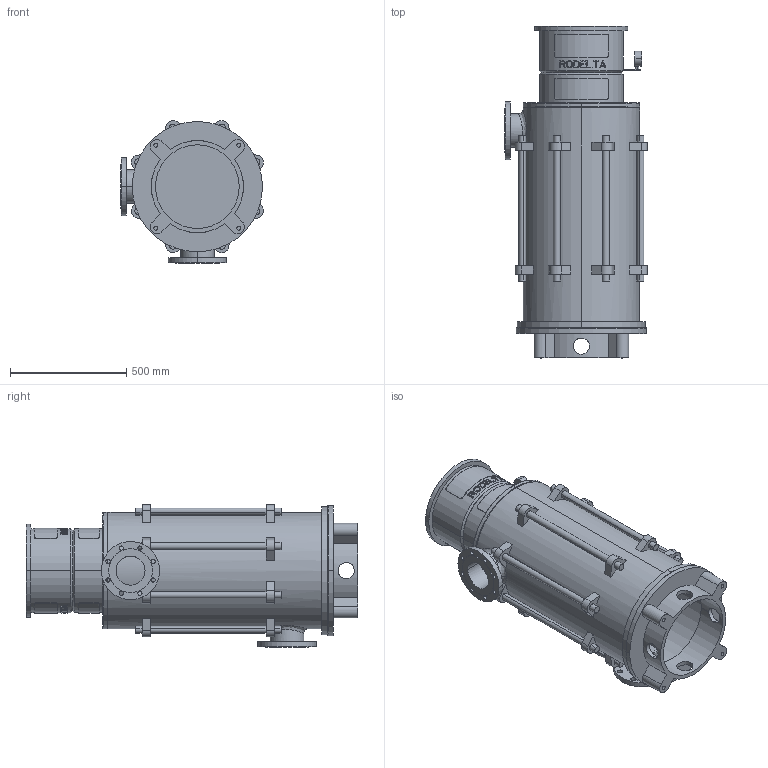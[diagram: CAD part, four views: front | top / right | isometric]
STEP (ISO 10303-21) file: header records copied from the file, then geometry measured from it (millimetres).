
FILE_DESCRIPTION((''),'2;1');
FILE_NAME('LS5_5TR_0GR_TOT_30KW','2023-08-08T',('Lyritlocal'),(''),'PRO/ENGINEER BY PARAMETRIC TECHNOLOGY CORPORATION, 2016360','PRO/ENGINEER BY PARAMETRIC TECHNOLOGY CORPORATION, 2016360','');
FILE_SCHEMA(('CONFIG_CONTROL_DESIGN'));
Length unit declared in the file: millimetre
Products named in the file (1): LS5_5TR_0GR_TOT_30KW
Bounding box: 614.04 x 1426 x 614.04 mm (x, y, z)
Volume: 40130398.1 mm3; surface area: 5860042.7 mm2
Topology: 3 solids, 7 shells, 672 faces, 1749 edges, 1158 vertices
Faces by surface type: plane 414, cylinder 242, cone 12, bspline 4
Entity records: 22023 total; most frequent: CARTESIAN_POINT 5571, ORIENTED_EDGE 3482, DIRECTION 3271, EDGE_CURVE 1749, AXIS2_PLACEMENT_3D 1241, VERTEX_POINT 1158, EDGE_LOOP 807, VECTOR 789
